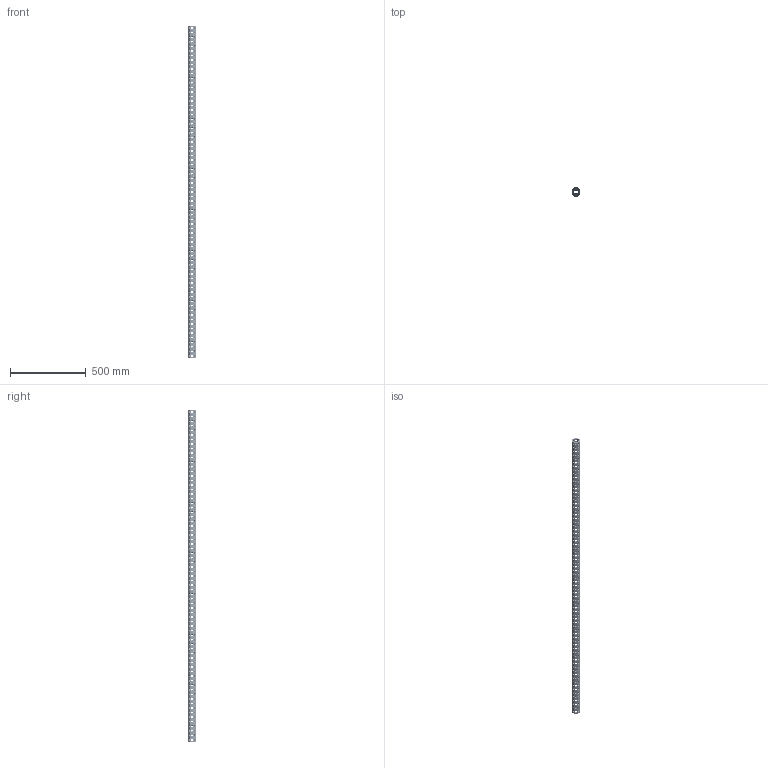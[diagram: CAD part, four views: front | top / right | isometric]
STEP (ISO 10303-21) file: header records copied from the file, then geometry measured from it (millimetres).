
FILE_DESCRIPTION(('CATIA V5 STEP Exchange'),'2;1');
FILE_NAME('U:\Room\唐宝山\EGT002\46-01-010302-01-EGT002-2188.stp','2021-08-24T01:54:29+00:00',('none'),('none'),'CATIA Version 5 Release 21 GA (IN-10)','CATIA V5 STEP AP203','none');
FILE_SCHEMA(('CONFIG_CONTROL_DESIGN'));
Products named in the file (1): 46-01-010302-01-EGT002-2188
Bounding box: 50 x 50 x 2188 mm (x, y, z)
Volume: 1558957.8 mm3; surface area: 751424.7 mm2
Topology: 1 solids, 1 shells, 3004 faces, 8276 edges, 5128 vertices
Faces by surface type: cone 1752, cylinder 1226, plane 26
Entity records: 128969 total; most frequent: CARTESIAN_POINT 56908, ORIENTED_EDGE 16552, DIRECTION 11360, EDGE_CURVE 8276, AXIS2_PLACEMENT_3D 5161, VERTEX_POINT 5128, EDGE_LOOP 4028, VECTOR 3196
